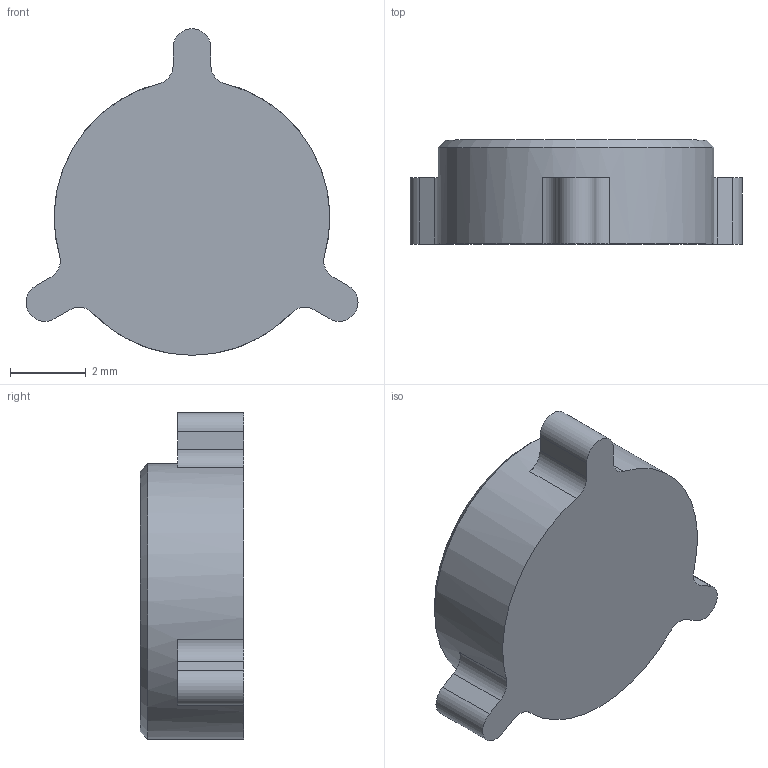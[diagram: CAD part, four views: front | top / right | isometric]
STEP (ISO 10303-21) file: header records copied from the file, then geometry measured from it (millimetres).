
FILE_DESCRIPTION(/* description */ (''),/* implementation_level */ '2;1');
FILE_NAME(/* name */ 'Home Button.step',/* time_stamp */ '2022-11-03T21:42:04+09:00',/* author */ (''),/* organization */ (''),/* preprocessor_version */ 'ST-DEVELOPER v19.2',/* originating_system */ 'Autodesk Translation Framework v11.17.0.187',/* authorisation */ '');
FILE_SCHEMA (('AUTOMOTIVE_DESIGN { 1 0 10303 214 3 1 1 }'));
Length unit declared in the file: millimetre
Products named in the file (1): Home Button
Bounding box: 8.79 x 2.75 x 8.65 mm (x, y, z)
Volume: 121.6 mm3; surface area: 162.8 mm2
Topology: 1 solids, 1 shells, 22 faces, 59 edges, 39 vertices
Faces by surface type: plane 11, cylinder 10, cone 1
Full cylindrical faces by diameter (mm): 7.3 x1
Entity records: 742 total; most frequent: DIRECTION 132, CARTESIAN_POINT 121, ORIENTED_EDGE 118, EDGE_CURVE 59, AXIS2_PLACEMENT_3D 50, VERTEX_POINT 39, LINE 32, VECTOR 32
